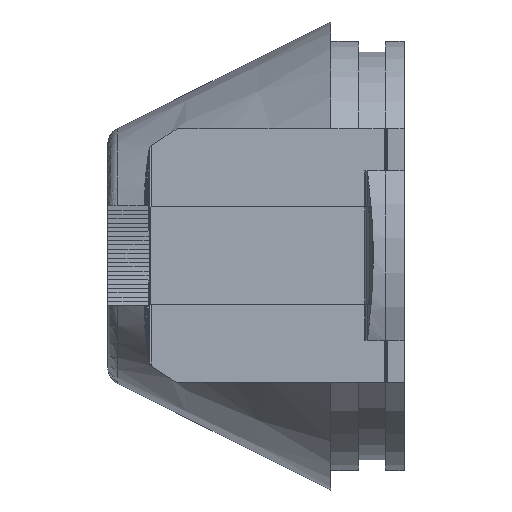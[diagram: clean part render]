
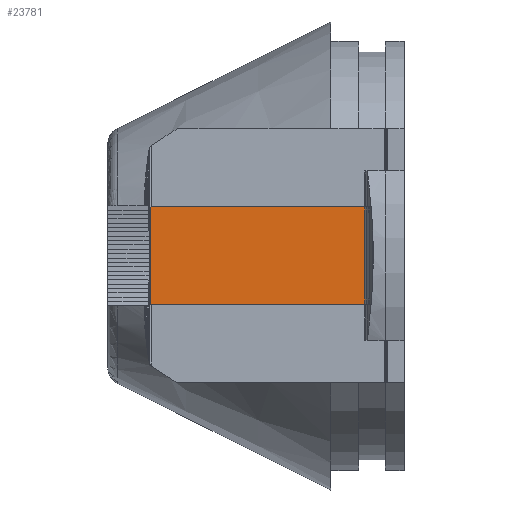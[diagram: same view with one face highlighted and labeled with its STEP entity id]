
A CAD part, top view. The second image highlights one B-rep face of the part: STEP entity #23781.
In plain terms, the highlighted planar face has unit normal (0.009, 0, 1).
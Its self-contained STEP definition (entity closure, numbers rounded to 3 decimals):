
#2771 = PLANE('',#2772);
#2772 = AXIS2_PLACEMENT_3D('',#2773,#2774,#2775);
#2773 = CARTESIAN_POINT('',(15.436,-4.4,21.555));
#2774 = DIRECTION('',(0.,1.,-0.));
#2775 = DIRECTION('',(-1.,0.,0.));
#4553 = PLANE('',#4554);
#4554 = AXIS2_PLACEMENT_3D('',#4555,#4556,#4557);
#4555 = CARTESIAN_POINT('',(15.436,4.4,21.555));
#4556 = DIRECTION('',(0.,1.,-0.));
#4557 = DIRECTION('',(-1.,0.,0.));
#4897 = VERTEX_POINT('',#4898);
#4898 = CARTESIAN_POINT('',(25.206,4.4,7.668));
#4912 = PLANE('',#4913);
#4913 = AXIS2_PLACEMENT_3D('',#4914,#4915,#4916);
#4914 = CARTESIAN_POINT('',(25.325,-4.4,7.697));
#4915 = DIRECTION('',(-0.237,0.,0.972));
#4916 = DIRECTION('',(-0.972,0.,-0.237));
#4924 = EDGE_CURVE('',#4897,#4925,#4927,.T.);
#4925 = VERTEX_POINT('',#4926);
#4926 = CARTESIAN_POINT('',(3.868,4.4,7.865));
#4927 = SURFACE_CURVE('',#4928,(#4932,#4939),.PCURVE_S1.);
#4928 = LINE('',#4929,#4930);
#4929 = CARTESIAN_POINT('',(25.206,4.4,7.668));
#4930 = VECTOR('',#4931,1.);
#4931 = DIRECTION('',(-1.,0.,0.009));
#4932 = PCURVE('',#4553,#4933);
#4933 = DEFINITIONAL_REPRESENTATION('',(#4934),#4938);
#4934 = LINE('',#4935,#4936);
#4935 = CARTESIAN_POINT('',(-9.77,-13.887));
#4936 = VECTOR('',#4937,1.);
#4937 = DIRECTION('',(1.,0.009));
#4938 = ( GEOMETRIC_REPRESENTATION_CONTEXT(2) 
PARAMETRIC_REPRESENTATION_CONTEXT() REPRESENTATION_CONTEXT('2D SPACE',''
  ) );
#4939 = PCURVE('',#4940,#4945);
#4940 = PLANE('',#4941);
#4941 = AXIS2_PLACEMENT_3D('',#4942,#4943,#4944);
#4942 = CARTESIAN_POINT('',(25.206,-4.4,7.668));
#4943 = DIRECTION('',(0.009,0.,1.));
#4944 = DIRECTION('',(-1.,0.,0.009));
#4945 = DEFINITIONAL_REPRESENTATION('',(#4946),#4950);
#4946 = LINE('',#4947,#4948);
#4947 = CARTESIAN_POINT('',(0.,-8.8));
#4948 = VECTOR('',#4949,1.);
#4949 = DIRECTION('',(1.,0.));
#4950 = ( GEOMETRIC_REPRESENTATION_CONTEXT(2) 
PARAMETRIC_REPRESENTATION_CONTEXT() REPRESENTATION_CONTEXT('2D SPACE',''
  ) );
#4968 = PLANE('',#4969);
#4969 = AXIS2_PLACEMENT_3D('',#4970,#4971,#4972);
#4970 = CARTESIAN_POINT('',(3.868,-4.4,7.865));
#4971 = DIRECTION('',(0.542,0.,0.84));
#4972 = DIRECTION('',(-0.84,0.,0.542));
#23738 = EDGE_CURVE('',#23739,#4897,#23741,.T.);
#23739 = VERTEX_POINT('',#23740);
#23740 = CARTESIAN_POINT('',(25.206,-4.4,7.668));
#23741 = SURFACE_CURVE('',#23742,(#23746,#23753),.PCURVE_S1.);
#23742 = LINE('',#23743,#23744);
#23743 = CARTESIAN_POINT('',(25.206,-4.4,7.668));
#23744 = VECTOR('',#23745,1.);
#23745 = DIRECTION('',(0.,1.,-0.));
#23746 = PCURVE('',#4912,#23747);
#23747 = DEFINITIONAL_REPRESENTATION('',(#23748),#23752);
#23748 = LINE('',#23749,#23750);
#23749 = CARTESIAN_POINT('',(0.123,0.));
#23750 = VECTOR('',#23751,1.);
#23751 = DIRECTION('',(0.,-1.));
#23752 = ( GEOMETRIC_REPRESENTATION_CONTEXT(2) 
PARAMETRIC_REPRESENTATION_CONTEXT() REPRESENTATION_CONTEXT('2D SPACE',''
  ) );
#23753 = PCURVE('',#4940,#23754);
#23754 = DEFINITIONAL_REPRESENTATION('',(#23755),#23759);
#23755 = LINE('',#23756,#23757);
#23756 = CARTESIAN_POINT('',(0.,0.));
#23757 = VECTOR('',#23758,1.);
#23758 = DIRECTION('',(0.,-1.));
#23759 = ( GEOMETRIC_REPRESENTATION_CONTEXT(2) 
PARAMETRIC_REPRESENTATION_CONTEXT() REPRESENTATION_CONTEXT('2D SPACE',''
  ) );
#23781 = ADVANCED_FACE('',(#23782),#4940,.T.);
#23782 = FACE_BOUND('',#23783,.T.);
#23783 = EDGE_LOOP('',(#23784,#23785,#23786,#23809));
#23784 = ORIENTED_EDGE('',*,*,#23738,.T.);
#23785 = ORIENTED_EDGE('',*,*,#4924,.T.);
#23786 = ORIENTED_EDGE('',*,*,#23787,.F.);
#23787 = EDGE_CURVE('',#23788,#4925,#23790,.T.);
#23788 = VERTEX_POINT('',#23789);
#23789 = CARTESIAN_POINT('',(3.868,-4.4,7.865));
#23790 = SURFACE_CURVE('',#23791,(#23795,#23802),.PCURVE_S1.);
#23791 = LINE('',#23792,#23793);
#23792 = CARTESIAN_POINT('',(3.868,-4.4,7.865));
#23793 = VECTOR('',#23794,1.);
#23794 = DIRECTION('',(0.,1.,-0.));
#23795 = PCURVE('',#4940,#23796);
#23796 = DEFINITIONAL_REPRESENTATION('',(#23797),#23801);
#23797 = LINE('',#23798,#23799);
#23798 = CARTESIAN_POINT('',(21.338,0.));
#23799 = VECTOR('',#23800,1.);
#23800 = DIRECTION('',(0.,-1.));
#23801 = ( GEOMETRIC_REPRESENTATION_CONTEXT(2) 
PARAMETRIC_REPRESENTATION_CONTEXT() REPRESENTATION_CONTEXT('2D SPACE',''
  ) );
#23802 = PCURVE('',#4968,#23803);
#23803 = DEFINITIONAL_REPRESENTATION('',(#23804),#23808);
#23804 = LINE('',#23805,#23806);
#23805 = CARTESIAN_POINT('',(0.,0.));
#23806 = VECTOR('',#23807,1.);
#23807 = DIRECTION('',(0.,-1.));
#23808 = ( GEOMETRIC_REPRESENTATION_CONTEXT(2) 
PARAMETRIC_REPRESENTATION_CONTEXT() REPRESENTATION_CONTEXT('2D SPACE',''
  ) );
#23809 = ORIENTED_EDGE('',*,*,#23810,.F.);
#23810 = EDGE_CURVE('',#23739,#23788,#23811,.T.);
#23811 = SURFACE_CURVE('',#23812,(#23816,#23823),.PCURVE_S1.);
#23812 = LINE('',#23813,#23814);
#23813 = CARTESIAN_POINT('',(25.206,-4.4,7.668));
#23814 = VECTOR('',#23815,1.);
#23815 = DIRECTION('',(-1.,0.,0.009));
#23816 = PCURVE('',#4940,#23817);
#23817 = DEFINITIONAL_REPRESENTATION('',(#23818),#23822);
#23818 = LINE('',#23819,#23820);
#23819 = CARTESIAN_POINT('',(0.,0.));
#23820 = VECTOR('',#23821,1.);
#23821 = DIRECTION('',(1.,0.));
#23822 = ( GEOMETRIC_REPRESENTATION_CONTEXT(2) 
PARAMETRIC_REPRESENTATION_CONTEXT() REPRESENTATION_CONTEXT('2D SPACE',''
  ) );
#23823 = PCURVE('',#2771,#23824);
#23824 = DEFINITIONAL_REPRESENTATION('',(#23825),#23829);
#23825 = LINE('',#23826,#23827);
#23826 = CARTESIAN_POINT('',(-9.77,-13.887));
#23827 = VECTOR('',#23828,1.);
#23828 = DIRECTION('',(1.,0.009));
#23829 = ( GEOMETRIC_REPRESENTATION_CONTEXT(2) 
PARAMETRIC_REPRESENTATION_CONTEXT() REPRESENTATION_CONTEXT('2D SPACE',''
  ) );
